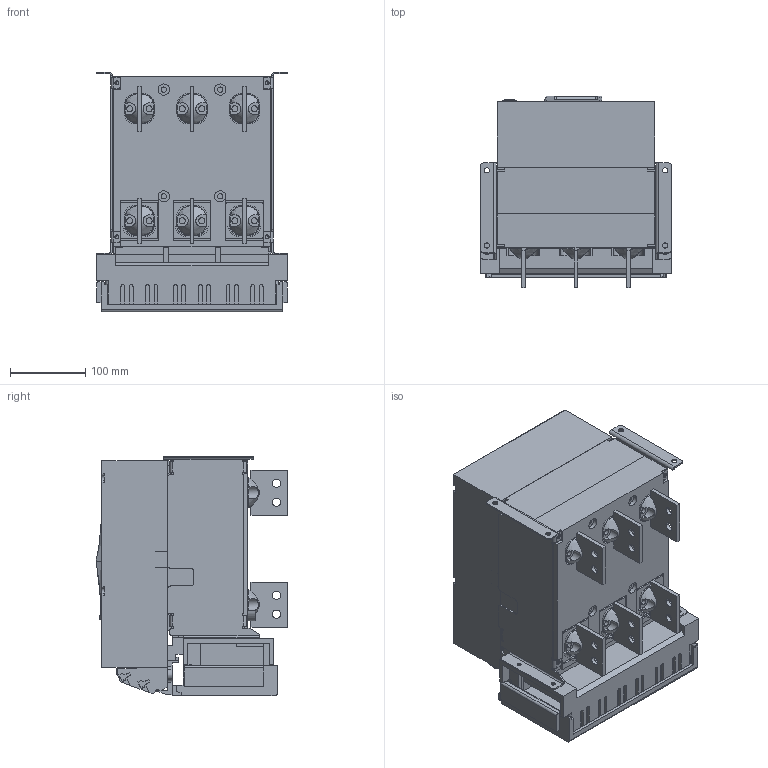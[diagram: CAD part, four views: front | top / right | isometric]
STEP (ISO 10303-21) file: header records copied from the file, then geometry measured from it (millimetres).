
FILE_DESCRIPTION((''),'2;1');
FILE_NAME('NA8G-1600-630-F-3P-V_ASM','2019-05-31T10:41:05',('lcc'),(''),'CREO PARAMETRIC BY PTC INC, 2018020','CREO PARAMETRIC BY PTC INC, 2018020','');
FILE_SCHEMA(('CONFIG_CONTROL_DESIGN','SHAPE_APPEARANCE_LAYERS_GROUPS'));
Products named in the file (18): 1600-JIZUO-3P; 1600-DIBAN-3P; 8-050-245; 8-050-246; 8-300-166; 8-015-021; 8-300-162-2; 8ZTD-064-138; 8ZTD-024-689; 8ZTD-860-511; 1600-DUANZI-CTS_ASM; 8-253-348; 8-253-349; 8-253-309; 5-235-147; 8-211-087; 8ZTD-580-199-1; NA8G-1600-630-F-3P-V_ASM
Assembly tree (37 placements, depth 3):
  NA8G-1600-630-F-3P-V_ASM
    1600-JIZUO-3P
    1600-DIBAN-3P
    8-050-245
    8-050-246
    8-300-166
    8-015-021
    8-300-162-2
    1600-DUANZI-CTS_ASM
      8ZTD-064-138
      8ZTD-024-689  x14
      8ZTD-860-511
    8-253-348
    8-253-349
    8-253-309
    5-235-147
    8-211-087  x3
    8ZTD-580-199-1  x6
Bounding box: 254 x 255 x 318.5 mm (x, y, z)
Volume: 6792381.3 mm3; surface area: 1401625.3 mm2
Topology: 36 solids, 47 shells, 4931 faces, 13770 edges, 9061 vertices
Faces by surface type: plane 4011, cylinder 869, bspline 22, torus 18, sphere 10, extrusion 1
Entity records: 118811 total; most frequent: CARTESIAN_POINT 17074, ORIENTED_EDGE 15630, DIRECTION 14823, PRESENTATION_STYLE_ASSIGNMENT 8391, STYLED_ITEM 8376, CURVE_STYLE 7818, EDGE_CURVE 7818, VECTOR 6425
